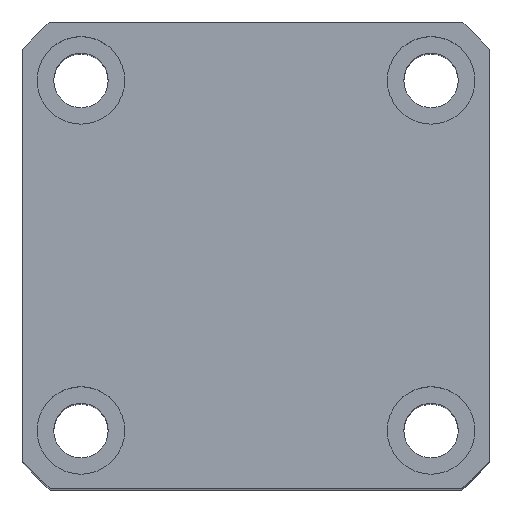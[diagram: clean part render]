
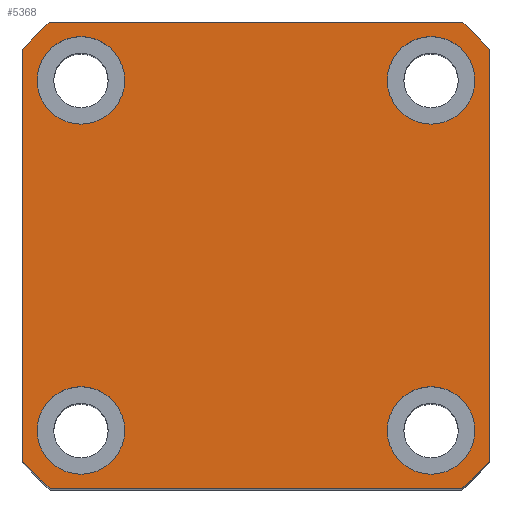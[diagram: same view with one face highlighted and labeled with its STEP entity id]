
A CAD part, top view. The second image highlights one B-rep face of the part: STEP entity #5368.
In plain terms, the highlighted planar face has unit normal (0, 0, 1).
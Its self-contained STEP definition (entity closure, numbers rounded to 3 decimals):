
#2623=LINE('',#15211,#3412);
#2627=LINE('',#15439,#3416);
#2631=LINE('',#15448,#3420);
#2635=LINE('',#15457,#3424);
#3412=VECTOR('',#11346,1.);
#3416=VECTOR('',#11468,1.);
#3420=VECTOR('',#11474,1.);
#3424=VECTOR('',#11480,1.);
#4307=PLANE('',#10948);
#5368=ADVANCED_FACE('',(#5836,#5837,#5838,#5839,#5840),#4307,.T.);
#5836=FACE_BOUND('',#6013,.T.);
#5837=FACE_BOUND('',#6014,.T.);
#5838=FACE_BOUND('',#6015,.T.);
#5839=FACE_BOUND('',#6016,.T.);
#5840=FACE_BOUND('',#6017,.T.);
#6013=EDGE_LOOP('',(#6606));
#6014=EDGE_LOOP('',(#6607));
#6015=EDGE_LOOP('',(#6608));
#6016=EDGE_LOOP('',(#6609));
#6017=EDGE_LOOP('',(#6610,#6611,#6612,#6613,#6614,#6615,#6616,#6617));
#6606=ORIENTED_EDGE('',*,*,#9667,.F.);
#6607=ORIENTED_EDGE('',*,*,#9669,.F.);
#6608=ORIENTED_EDGE('',*,*,#9671,.F.);
#6609=ORIENTED_EDGE('',*,*,#9673,.F.);
#6610=ORIENTED_EDGE('',*,*,#9644,.T.);
#6611=ORIENTED_EDGE('',*,*,#9699,.T.);
#6612=ORIENTED_EDGE('',*,*,#9688,.T.);
#6613=ORIENTED_EDGE('',*,*,#9700,.T.);
#6614=ORIENTED_EDGE('',*,*,#9692,.T.);
#6615=ORIENTED_EDGE('',*,*,#9701,.T.);
#6616=ORIENTED_EDGE('',*,*,#9696,.T.);
#6617=ORIENTED_EDGE('',*,*,#9702,.T.);
#8823=VERTEX_POINT('',#15209);
#8825=VERTEX_POINT('',#15212);
#8847=VERTEX_POINT('',#15388);
#8849=VERTEX_POINT('',#15393);
#8851=VERTEX_POINT('',#15398);
#8853=VERTEX_POINT('',#15403);
#8866=VERTEX_POINT('',#15437);
#8868=VERTEX_POINT('',#15440);
#8870=VERTEX_POINT('',#15446);
#8872=VERTEX_POINT('',#15449);
#8874=VERTEX_POINT('',#15455);
#8876=VERTEX_POINT('',#15458);
#9644=EDGE_CURVE('',#8825,#8823,#2623,.T.);
#9667=EDGE_CURVE('',#8847,#8847,#10795,.T.);
#9669=EDGE_CURVE('',#8849,#8849,#10797,.T.);
#9671=EDGE_CURVE('',#8851,#8851,#10799,.T.);
#9673=EDGE_CURVE('',#8853,#8853,#10801,.T.);
#9688=EDGE_CURVE('',#8868,#8866,#2627,.T.);
#9692=EDGE_CURVE('',#8872,#8870,#2631,.T.);
#9696=EDGE_CURVE('',#8876,#8874,#2635,.T.);
#9699=EDGE_CURVE('',#8823,#8868,#10815,.T.);
#9700=EDGE_CURVE('',#8866,#8872,#10816,.T.);
#9701=EDGE_CURVE('',#8870,#8876,#10817,.T.);
#9702=EDGE_CURVE('',#8874,#8825,#10818,.T.);
#10795=CIRCLE('',#10911,4.5);
#10797=CIRCLE('',#10914,4.5);
#10799=CIRCLE('',#10917,4.5);
#10801=CIRCLE('',#10920,4.5);
#10815=CIRCLE('',#10944,32.);
#10816=CIRCLE('',#10945,32.);
#10817=CIRCLE('',#10946,32.);
#10818=CIRCLE('',#10947,32.);
#10911=AXIS2_PLACEMENT_3D('',#15387,#11407,#11408);
#10914=AXIS2_PLACEMENT_3D('',#15392,#11413,#11414);
#10917=AXIS2_PLACEMENT_3D('',#15397,#11419,#11420);
#10920=AXIS2_PLACEMENT_3D('',#15402,#11425,#11426);
#10944=AXIS2_PLACEMENT_3D('',#15463,#11485,#11486);
#10945=AXIS2_PLACEMENT_3D('',#15464,#11487,#11488);
#10946=AXIS2_PLACEMENT_3D('',#15465,#11489,#11490);
#10947=AXIS2_PLACEMENT_3D('',#15466,#11491,#11492);
#10948=AXIS2_PLACEMENT_3D('',#15467,#11493,#11494);
#11346=DIRECTION('',(0.,1.,0.));
#11407=DIRECTION('',(0.,0.,1.));
#11408=DIRECTION('',(1.,0.,0.));
#11413=DIRECTION('',(0.,0.,1.));
#11414=DIRECTION('',(1.,0.,0.));
#11419=DIRECTION('',(0.,0.,1.));
#11420=DIRECTION('',(1.,0.,0.));
#11425=DIRECTION('',(0.,0.,1.));
#11426=DIRECTION('',(1.,0.,0.));
#11468=DIRECTION('',(-1.,0.,0.));
#11474=DIRECTION('',(0.,-1.,0.));
#11480=DIRECTION('',(1.,0.,0.));
#11485=DIRECTION('',(0.,0.,1.));
#11486=DIRECTION('',(1.,0.,0.));
#11487=DIRECTION('',(0.,0.,1.));
#11488=DIRECTION('',(1.,0.,0.));
#11489=DIRECTION('',(0.,0.,1.));
#11490=DIRECTION('',(1.,0.,0.));
#11491=DIRECTION('',(0.,0.,1.));
#11492=DIRECTION('',(1.,0.,0.));
#11493=DIRECTION('',(0.,0.,1.));
#11494=DIRECTION('',(-1.,0.,0.));
#15209=CARTESIAN_POINT('',(-112.361,59.293,105.96));
#15211=CARTESIAN_POINT('',(-112.361,62.127,105.96));
#15212=CARTESIAN_POINT('',(-112.361,16.961,105.96));
#15387=CARTESIAN_POINT('',(-118.361,20.127,105.96));
#15388=CARTESIAN_POINT('',(-113.861,20.127,105.96));
#15392=CARTESIAN_POINT('',(-154.361,20.127,105.96));
#15393=CARTESIAN_POINT('',(-149.861,20.127,105.96));
#15397=CARTESIAN_POINT('',(-118.361,56.127,105.96));
#15398=CARTESIAN_POINT('',(-113.861,56.127,105.96));
#15402=CARTESIAN_POINT('',(-154.361,56.127,105.96));
#15403=CARTESIAN_POINT('',(-149.861,56.127,105.96));
#15437=CARTESIAN_POINT('',(-157.527,62.127,105.96));
#15439=CARTESIAN_POINT('',(-160.361,62.127,105.96));
#15440=CARTESIAN_POINT('',(-115.195,62.127,105.96));
#15446=CARTESIAN_POINT('',(-160.361,16.961,105.96));
#15448=CARTESIAN_POINT('',(-160.361,62.127,105.96));
#15449=CARTESIAN_POINT('',(-160.361,59.293,105.96));
#15455=CARTESIAN_POINT('',(-115.195,14.127,105.96));
#15457=CARTESIAN_POINT('',(-160.361,14.127,105.96));
#15458=CARTESIAN_POINT('',(-157.527,14.127,105.96));
#15463=CARTESIAN_POINT('',(-136.361,38.127,105.96));
#15464=CARTESIAN_POINT('',(-136.361,38.127,105.96));
#15465=CARTESIAN_POINT('',(-136.361,38.127,105.96));
#15466=CARTESIAN_POINT('',(-136.361,38.127,105.96));
#15467=CARTESIAN_POINT('',(-136.361,38.127,105.96));
